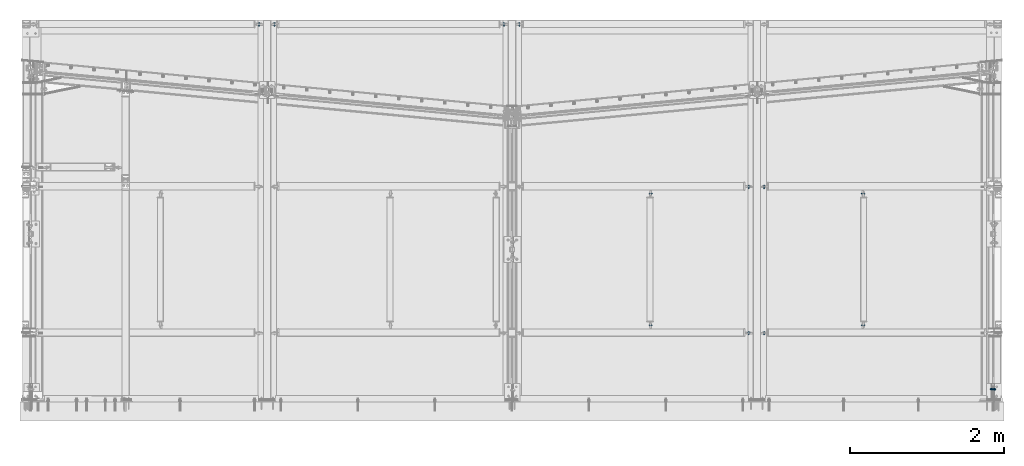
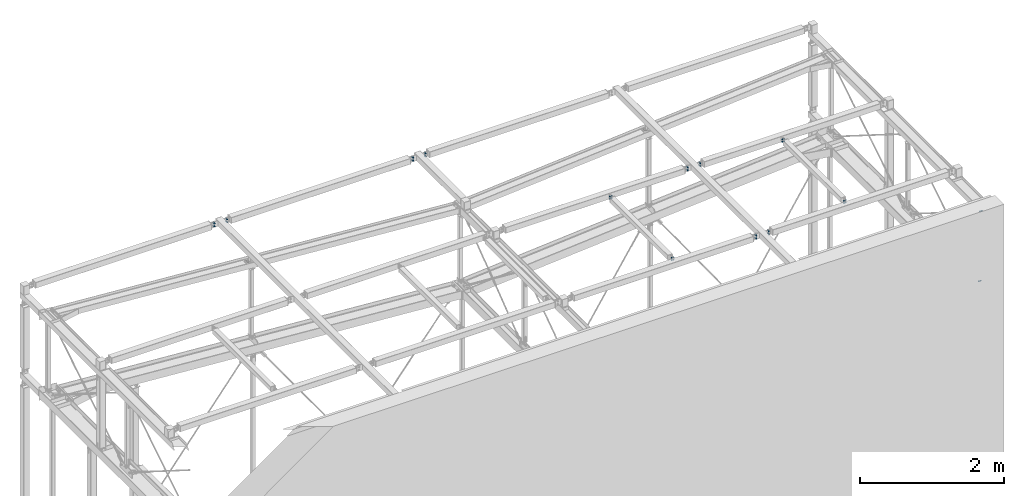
# One storey, part 255 of 271: 14 mechanical fasteners, 11 elements without a shape of their own.
"""IFC2X3 building model written with IfcOpenShell, lengths in millimetres."""

import ifcopenshell
import ifcopenshell.guid

model = None  # the IFC model being written
_history = None  # IfcOwnerHistory: only IFC2X3 demands one
_inside = {}  # id of a spatial element -> (the spatial element, [elements in it])
_under = {}  # id of a project, library or spatial element -> (it, [spatial elements below it])
_declared = {}  # id of a project -> (the project, [libraries it declares])
_typed = {}  # id of a type object -> (the type object, [elements of that type])
_made_of = {}  # id of a material, layer set ... -> (it, [elements and type objects made of it])


def new_model(schema):
    """Start an empty IFC model of exactly this schema.

    Asked for "IFC4X3", IfcOpenShell would pick the latest addendum, in which some entities
    have other attributes; the version numbers below select the first issue.
    IFC2X3 requires an IfcOwnerHistory on every rooted entity: one is made here for all.
    """
    global model, _history
    if schema == "IFC4X3":
        model = ifcopenshell.file(schema_version=(4, 3, 0, 0))
    else:
        model = ifcopenshell.file(schema=schema)
    _inside.clear()
    _under.clear()
    _declared.clear()
    _typed.clear()
    _made_of.clear()
    _history = None
    if model.schema == "IFC2X3":
        org = make("IfcOrganization", Name="unknown")
        user = make(
            "IfcPersonAndOrganization",
            ThePerson=make("IfcPerson", FamilyName="unknown"),
            TheOrganization=org,
        )
        app = make(
            "IfcApplication",
            ApplicationDeveloper=org,
            Version="unknown",
            ApplicationFullName="unknown",
            ApplicationIdentifier="unknown",
        )
        _history = make(
            "IfcOwnerHistory",
            OwningUser=user,
            OwningApplication=app,
            ChangeAction="ADDED",
            CreationDate=0,
        )
    return model


def make(cls, **values):
    """One entity of the class cls with the attributes given. An attribute that is None is left unset."""
    return model.create_entity(
        cls, **{name: value for name, value in values.items() if value is not None}
    )


def rooted(cls, **values):
    """An entity with a GlobalId (a new one), such as an element, a storey or a relation."""
    return make(cls, GlobalId=ifcopenshell.guid.new(), OwnerHistory=_history, **values)


def si_unit(unit_type, name, prefix=None):
    """IfcSIUnit, for example si_unit("LENGTHUNIT", "METRE", prefix="MILLI")."""
    return make("IfcSIUnit", UnitType=unit_type, Prefix=prefix, Name=name)


def assignment(units):
    """IfcUnitAssignment: the units of a project."""
    return None if units is None else make("IfcUnitAssignment", Units=units)


def point(xyz):
    """IfcCartesianPoint."""
    return None if xyz is None else make("IfcCartesianPoint", Coordinates=xyz)


def direction(xyz):
    """IfcDirection."""
    return None if xyz is None else make("IfcDirection", DirectionRatios=xyz)


def frame(location, z_axis=None, x_axis=None):
    """IfcAxis2Placement3D, a coordinate frame: its origin and axes. An axis left out is left unset."""
    return make(
        "IfcAxis2Placement3D",
        Location=point(location),
        Axis=direction(z_axis),
        RefDirection=direction(x_axis),
    )


def frame_2d(location, x_axis=None):
    """IfcAxis2Placement2D, a coordinate frame in the plane: its origin and x axis."""
    return make(
        "IfcAxis2Placement2D", Location=point(location), RefDirection=direction(x_axis)
    )


def origin_with_axes():
    """The frame at (0, 0, 0) with the z axis (0, 0, 1) and the x axis (1, 0, 0) written out."""
    return frame((0.0, 0.0, 0.0), z_axis=(0.0, 0.0, 1.0), x_axis=(1.0, 0.0, 0.0))


def origin_2d_with_axis():
    """The frame at (0, 0) in the plane with the x axis (1, 0) written out."""
    return frame_2d((0.0, 0.0), x_axis=(1.0, 0.0))


def place(relative_to, where):
    """IfcLocalPlacement: puts the frame where relative to a parent placement (None: the world)."""
    return make(
        "IfcLocalPlacement", PlacementRelTo=relative_to, RelativePlacement=where
    )


def context(
    kind, dimensions, precision=None, world=None, true_north=None, identifier=None
):
    """IfcGeometricRepresentationContext, for example the 3D "Model" context."""
    return make(
        "IfcGeometricRepresentationContext",
        ContextIdentifier=identifier,
        ContextType=kind,
        CoordinateSpaceDimension=dimensions,
        Precision=precision,
        WorldCoordinateSystem=world,
        TrueNorth=true_north,
    )


def subcontext(parent, identifier, kind, view, scale=None):
    """IfcGeometricRepresentationSubContext, for example "Body" below "Model"."""
    return make(
        "IfcGeometricRepresentationSubContext",
        ContextIdentifier=identifier,
        ContextType=kind,
        ParentContext=parent,
        TargetScale=scale,
        TargetView=view,
    )


def project(units=None, contexts=None):
    """IfcProject with its units and contexts."""
    return rooted(
        "IfcProject",
        Name="project",
        RepresentationContexts=contexts,
        UnitsInContext=assignment(units),
    )


def spatial(cls, under=None, at=None, **own):
    """A site, building, storey or space (cls), placed at a placement, below another one or the project."""
    s = rooted(cls, ObjectPlacement=at, **own)
    if under is not None:
        _under.setdefault(under.id(), (under, []))[1].append(s)
    return s


def polyline(points):
    """IfcPolyline through the points."""
    return make("IfcPolyline", Points=[point(p) for p in points])


def circle_curve(where, radius):
    """IfcCircle in the frame where."""
    return make("IfcCircle", Position=where, Radius=radius)


def parameter(value):
    """IfcParameterValue: where a trimmed curve begins or ends, as a parameter of its basis curve."""
    return model.create_entity("IfcParameterValue", value)


def trimmed(basis, trim1, trim2, sense, master):
    """IfcTrimmedCurve: the piece of a basis curve between two trims."""
    return make(
        "IfcTrimmedCurve",
        BasisCurve=basis,
        Trim1=trim1,
        Trim2=trim2,
        SenseAgreement=sense,
        MasterRepresentation=master,
    )


def segment(curve, same_sense, transition):
    """IfcCompositeCurveSegment."""
    return make(
        "IfcCompositeCurveSegment",
        Transition=transition,
        SameSense=same_sense,
        ParentCurve=curve,
    )


def composite_curve(segments, self_intersect=None):
    """IfcCompositeCurve: segments joined end to end."""
    return make("IfcCompositeCurve", Segments=segments, SelfIntersect=self_intersect)


def profile(cls, at=None, kind="AREA", **sizes):
    """A parametric profile (cls). Its sizes go by their IFC names, for example OverallWidth=200.0."""
    return make(cls, ProfileType=kind, Position=at, **sizes)


def circle(**sizes):
    """IfcCircleProfileDef."""
    return profile("IfcCircleProfileDef", **sizes)


def outline(outer, holes=None, kind="AREA"):
    """IfcArbitraryClosedProfileDef: a profile drawn as a closed curve; with holes, ...WithVoids."""
    if holes is None:
        return make("IfcArbitraryClosedProfileDef", ProfileType=kind, OuterCurve=outer)
    return make(
        "IfcArbitraryProfileDefWithVoids",
        ProfileType=kind,
        OuterCurve=outer,
        InnerCurves=holes,
    )


def extrude(swept, where, along, depth):
    """IfcExtrudedAreaSolid: the profile swept, set in the frame where, extruded along a direction by depth."""
    return make(
        "IfcExtrudedAreaSolid",
        SweptArea=swept,
        Position=where,
        ExtrudedDirection=direction(along),
        Depth=depth,
    )


def shape(context_of_items, identifier, shape_type, items):
    """IfcShapeRepresentation: the items that make up one representation, for example the "Body"."""
    return make(
        "IfcShapeRepresentation",
        ContextOfItems=context_of_items,
        RepresentationIdentifier=identifier,
        RepresentationType=shape_type,
        Items=items,
    )


def source(mapping_origin, context_of_items, identifier, shape_type, items):
    """IfcRepresentationMap: a shape defined once, which mapped items show again and again."""
    return make(
        "IfcRepresentationMap",
        MappingOrigin=mapping_origin,
        MappedRepresentation=shape(context_of_items, identifier, shape_type, items),
    )


def transform(
    local_origin,
    x_axis=None,
    y_axis=None,
    z_axis=None,
    scale=None,
    scale2=None,
    scale3=None,
    uniform=True,
):
    """IfcCartesianTransformationOperator3D, or its non-uniform kind. x_axis, y_axis, z_axis: its Axis1, 2, 3."""
    if uniform:
        return make(
            "IfcCartesianTransformationOperator3D",
            Axis1=direction(x_axis),
            Axis2=direction(y_axis),
            LocalOrigin=point(local_origin),
            Scale=scale,
            Axis3=direction(z_axis),
        )
    return make(
        "IfcCartesianTransformationOperator3DnonUniform",
        Axis1=direction(x_axis),
        Axis2=direction(y_axis),
        LocalOrigin=point(local_origin),
        Scale=scale,
        Axis3=direction(z_axis),
        Scale2=scale2,
        Scale3=scale3,
    )


def mapped(mapping_source, mapping_target):
    """IfcMappedItem: shows the shape of a source again, moved by a transform."""
    return make(
        "IfcMappedItem", MappingSource=mapping_source, MappingTarget=mapping_target
    )


def material(Name=None, Category=None):
    """IfcMaterial."""
    return make("IfcMaterial", Name=Name, Category=Category)


def made_of(thing, what):
    """Note that an element or type object is made of a material, layer set ...; save() writes the relation."""
    if what is not None:
        _made_of.setdefault(what.id(), (what, []))[1].append(thing)
    return thing


def type_object(cls, material=None, **own):
    """A type object (cls), such as IfcWallType, which elements share."""
    return made_of(rooted(cls, **own), material)


def element(
    cls,
    number,
    at=None,
    inside=None,
    cuts=None,
    type_object=None,
    material=None,
    context=None,
    identifier="Body",
    shape_type=None,
    held_by="IfcProductDefinitionShape",
    body=None,
    shapes=None,
    **own,
):
    """One element of the class cls, such as IfcWall. Its Tag is "e" and its number.

    at: its placement. inside: the storey or other place that contains it. cuts: it is an
    opening in that element (IfcRelVoidsElement). A single representation is given by context,
    identifier, shape_type and body (its items); several are given by shapes. held_by: the class
    of the entity that holds the representations. save() writes the other relations.
    """
    e = rooted(cls, Tag="e%d" % number, ObjectPlacement=at, **own)
    if body is not None:
        shapes = [shape(context, identifier, shape_type, body)]
    if shapes is not None:
        e.Representation = make(held_by, Representations=shapes)
    if inside is not None:
        _inside.setdefault(inside.id(), (inside, []))[1].append(e)
    if cuts is not None:
        rooted(
            "IfcRelVoidsElement", RelatingBuildingElement=cuts, RelatedOpeningElement=e
        )
    if type_object is not None:
        _typed.setdefault(type_object.id(), (type_object, []))[1].append(e)
    return made_of(e, material)


def aggregate(whole, parts):
    """IfcRelAggregates: a whole, such as a stair, and the parts it consists of."""
    return rooted("IfcRelAggregates", RelatingObject=whole, RelatedObjects=parts)


def save(model, path):
    """Write the relations noted so far, then the file.

    IfcRelAggregates (storeys below a building ...), IfcRelContainedInSpatialStructure (elements
    in a storey), IfcRelDefinesByType, IfcRelAssociatesMaterial and IfcRelDeclares: one each for
    every whole, place, type object, material and project.
    """
    for whole, parts in _under.values():
        aggregate(whole, parts)
    for where, things in _inside.values():
        rooted(
            "IfcRelContainedInSpatialStructure",
            RelatedElements=things,
            RelatingStructure=where,
        )
    for kind, things in _typed.values():
        rooted("IfcRelDefinesByType", RelatedObjects=things, RelatingType=kind)
    for what, things in _made_of.values():
        rooted("IfcRelAssociatesMaterial", RelatedObjects=things, RelatingMaterial=what)
    for by, libraries in _declared.values():
        rooted("IfcRelDeclares", RelatingContext=by, RelatedDefinitions=libraries)
    model.write(path)


model = new_model("IFC2X3")

# Units and contexts
model_context = context("Model", 3, precision=1e-05, world=origin_with_axes())
body_context = subcontext(model_context, "Body", "Model", "MODEL_VIEW")
ifc_project = project(units=[si_unit("LENGTHUNIT", "METRE", prefix="MILLI"), si_unit("AREAUNIT", "SQUARE_METRE"), si_unit("VOLUMEUNIT", "CUBIC_METRE"), si_unit("MASSUNIT", "GRAM", prefix="KILO"), si_unit("TIMEUNIT", "SECOND"), si_unit("PLANEANGLEUNIT", "RADIAN"), si_unit("SOLIDANGLEUNIT", "STERADIAN"), si_unit("THERMODYNAMICTEMPERATUREUNIT", "DEGREE_CELSIUS"), si_unit("LUMINOUSINTENSITYUNIT", "LUMEN")], contexts=[model_context])

# Site, building, storey
site_placement = place(None, origin_with_axes())
site = spatial("IfcSite", under=ifc_project, at=site_placement, Name="Undefined", CompositionType="ELEMENT")
building_placement = place(site_placement, origin_with_axes())
building = spatial("IfcBuilding", under=site, at=building_placement, Name="Undefined", CompositionType="ELEMENT")
storey_placement = place(building_placement, origin_with_axes())
storey = spatial("IfcBuildingStorey", under=building, at=storey_placement, Name="Undefined", CompositionType="ELEMENT", Elevation=0.0)

# Assembly, mechanical fastener
assembly_1_placement = place(storey_placement, origin_with_axes())
assembly_1 = element("IfcElementAssembly", 1, at=assembly_1_placement, inside=storey, AssemblyPlace="NOTDEFINED", PredefinedType="RIGID_FRAME")
ifc_material = material(Name="Undefined")
mechanical_fastener_type = type_object("IfcMechanicalFastenerType", Name="Bolt assembly")
shared_shape_1 = source(origin_with_axes(), body_context, "Body", "SweptSolid", [
    extrude(circle(Radius=6.5, at=origin_2d_with_axis()), frame((0.0, -5.1, 0.0), z_axis=(0.0, 1.0, 0.0), x_axis=(1.0, 0.0, 0.0)), (0.0, 0.0, 1.0), 10.1),
    extrude(circle(Radius=6.5, at=origin_2d_with_axis()), frame((0.0, -16.9, 0.0), z_axis=(0.0, 1.0, 0.0), x_axis=(1.0, 0.0, 0.0)), (0.0, 0.0, 1.0), 12.0),
    extrude(outline(polyline([(10.39230484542, 0.0), (5.19615242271, 9.00000000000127), (-5.19615242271, 9.00000000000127), (-10.39230484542, 0.0), (-5.19615242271, -9.00000000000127), (5.19615242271, -9.00000000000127), (10.39230484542, 0.0)])), frame((0.0, -27.0, 0.0), z_axis=(0.0, 1.0, 0.0), x_axis=(1.0, 0.0, 0.0)), (0.0, 0.0, 1.0), 7.5),
    extrude(circle(Radius=6.0, at=origin_2d_with_axis()), frame((0.0, -19.5, 0.0), z_axis=(0.0, 1.0, 0.0), x_axis=(1.0, 0.0, 0.0)), (0.0, 0.0, 1.0), 45.0),
    extrude(circle(Radius=12.0, at=origin_2d_with_axis()), frame((0.0, -19.5, 0.0), z_axis=(0.0, 1.0, 0.0), x_axis=(1.0, 0.0, 0.0)), (0.0, 0.0, 1.0), 2.5),
    extrude(circle(Radius=12.0, at=origin_2d_with_axis()), frame((0.0, 5.00000000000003, 0.0), z_axis=(0.0, 1.0, 0.0), x_axis=(1.0, 0.0, 0.0)), (0.0, 0.0, 1.0), 2.5),
    extrude(outline(polyline([(10.96965511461, 0.0), (5.484827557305, 9.50000000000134), (-5.484827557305, 9.50000000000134), (-10.96965511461, 0.0), (-5.484827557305, -9.50000000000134), (5.484827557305, -9.50000000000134), (10.96965511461, 0.0)])), frame((0.0, 7.50000000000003, 0.0), z_axis=(0.0, 1.0, 0.0), x_axis=(1.0, 0.0, 0.0)), (0.0, 0.0, 1.0), 10.0),
])
mechanical_fastener_1_placement = place(assembly_1_placement, frame((12586.7513741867, 164.506095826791, 18734.6674519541), z_axis=(0.0, -0.533166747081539, 0.846010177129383), x_axis=(0.0, 0.846010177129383, 0.533166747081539)))
mechanical_fastener_1 = element("IfcMechanicalFastener", 2, at=mechanical_fastener_1_placement, type_object=mechanical_fastener_type, material=ifc_material, Name="Bolt assembly", NominalDiameter=12.0, NominalLength=45.0, context=body_context, shape_type="MappedRepresentation", body=[
    mapped(shared_shape_1, transform((0.0, 0.0, 0.0))),
])
aggregate(assembly_1, [mechanical_fastener_1])

assembly_2_placement = place(storey_placement, origin_with_axes())
assembly_2 = element("IfcElementAssembly", 3, at=assembly_2_placement, inside=storey, AssemblyPlace="NOTDEFINED", PredefinedType="RIGID_FRAME")
mechanical_fastener_2_placement = place(assembly_2_placement, frame((12608.7513741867, 163.47469996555, 19914.6825462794), z_axis=(0.0, -0.533166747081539, -0.846010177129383), x_axis=(0.0, 0.846010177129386, -0.533166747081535)))
mechanical_fastener_2 = element("IfcMechanicalFastener", 4, at=mechanical_fastener_2_placement, type_object=mechanical_fastener_type, material=ifc_material, Name="Bolt assembly", NominalDiameter=12.0, NominalLength=45.0, context=body_context, shape_type="MappedRepresentation", body=[
    mapped(shared_shape_1, transform((0.0, 0.0, 0.0))),
])
aggregate(assembly_2, [mechanical_fastener_2])

assembly_3_placement = place(storey_placement, origin_with_axes())
assembly_3 = element("IfcElementAssembly", 5, at=assembly_3_placement, inside=storey, AssemblyPlace="NOTDEFINED", PredefinedType="RIGID_FRAME")
shared_shape_2 = source(origin_with_axes(), body_context, "Body", "SweptSolid", [
    extrude(circle(Radius=6.5, at=origin_2d_with_axis()), frame((0.0, -5.1, 0.0), z_axis=(0.0, 1.0, 0.0), x_axis=(1.0, 0.0, 0.0)), (0.0, 0.0, 1.0), 10.1),
    extrude(circle(Radius=6.5, at=origin_2d_with_axis()), frame((0.0, -14.9000000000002, 0.0), z_axis=(0.0, 1.0, 0.0), x_axis=(1.0, 0.0, 0.0)), (0.0, 0.0, 1.0), 10.0),
    extrude(outline(polyline([(10.39230484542, 0.0), (5.19615242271, 9.00000000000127), (-5.19615242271, 9.00000000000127), (-10.39230484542, 0.0), (-5.19615242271, -9.00000000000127), (5.19615242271, -9.00000000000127), (10.39230484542, 0.0)])), frame((0.0, -25.0000000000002, 0.0), z_axis=(0.0, 1.0, 0.0), x_axis=(1.0, 0.0, 0.0)), (0.0, 0.0, 1.0), 7.5),
    extrude(circle(Radius=6.0, at=origin_2d_with_axis()), frame((0.0, -17.5000000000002, 0.0), z_axis=(0.0, 1.0, 0.0), x_axis=(1.0, 0.0, 0.0)), (0.0, 0.0, 1.0), 40.0),
    extrude(circle(Radius=12.0, at=origin_2d_with_axis()), frame((0.0, -17.5000000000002, 0.0), z_axis=(0.0, 1.0, 0.0), x_axis=(1.0, 0.0, 0.0)), (0.0, 0.0, 1.0), 2.5),
    extrude(circle(Radius=12.0, at=origin_2d_with_axis()), frame((0.0, 5.00000000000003, 0.0), z_axis=(0.0, 1.0, 0.0), x_axis=(1.0, 0.0, 0.0)), (0.0, 0.0, 1.0), 2.5),
    extrude(outline(polyline([(10.96965511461, 0.0), (5.484827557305, 9.50000000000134), (-5.484827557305, 9.50000000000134), (-10.96965511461, 0.0), (-5.484827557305, -9.50000000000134), (5.484827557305, -9.50000000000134), (10.96965511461, 0.0)])), frame((0.0, 7.50000000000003, 0.0), z_axis=(0.0, 1.0, 0.0), x_axis=(1.0, 0.0, 0.0)), (0.0, 0.0, 1.0), 10.0),
])
mechanical_fastener_3_placement = place(assembly_3_placement, frame((6443.37568736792, 4899.32498425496, 20154.3499999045), z_axis=(0.0, 0.0, -1.0), x_axis=(1.0, 0.0, 0.0)))
mechanical_fastener_3 = element("IfcMechanicalFastener", 6, at=mechanical_fastener_3_placement, type_object=mechanical_fastener_type, material=ifc_material, Name="Bolt assembly", NominalDiameter=12.0, NominalLength=40.0, context=body_context, shape_type="MappedRepresentation", body=[
    mapped(shared_shape_2, transform((0.0, 0.0, -25.0))),
    mapped(shared_shape_2, transform((0.0, 0.0, 25.0))),
])
aggregate(assembly_3, [mechanical_fastener_3])

# Assembly, mechanical fasteners
assembly_4_placement = place(storey_placement, origin_with_axes())
assembly_4 = element("IfcElementAssembly", 7, at=assembly_4_placement, inside=storey, AssemblyPlace="NOTDEFINED", PredefinedType="RIGID_FRAME")
mechanical_fastener_4_placement = place(assembly_4_placement, frame((10905.3756870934, 994.32498425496, 20164.3499999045), z_axis=(0.0, 0.0, 1.0), x_axis=(0.0, 1.0, 0.0)))
mechanical_fastener_4 = element("IfcMechanicalFastener", 8, at=mechanical_fastener_4_placement, type_object=mechanical_fastener_type, material=ifc_material, Name="Bolt assembly", NominalDiameter=12.0, NominalLength=40.0, context=body_context, shape_type="MappedRepresentation", body=[
    mapped(shared_shape_2, transform((0.0, 0.0, -20.0))),
    mapped(shared_shape_2, transform((0.0, 0.0, 20.0))),
])
mechanical_fastener_5_placement = place(assembly_4_placement, frame((10905.3756870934, 2704.32498425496, 20164.3499999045), z_axis=(0.0, 0.0, -1.0), x_axis=(0.0, -1.0, 0.0)))
mechanical_fastener_5 = element("IfcMechanicalFastener", 9, at=mechanical_fastener_5_placement, type_object=mechanical_fastener_type, material=ifc_material, Name="Bolt assembly", NominalDiameter=12.0, NominalLength=40.0, context=body_context, shape_type="MappedRepresentation", body=[
    mapped(shared_shape_2, transform((0.0, 0.0, -20.0))),
    mapped(shared_shape_2, transform((0.0, 0.0, 20.0))),
])
aggregate(assembly_4, [mechanical_fastener_4, mechanical_fastener_5])

assembly_5_placement = place(storey_placement, origin_with_axes())
assembly_5 = element("IfcElementAssembly", 10, at=assembly_5_placement, inside=storey, AssemblyPlace="NOTDEFINED", PredefinedType="RIGID_FRAME")
mechanical_fastener_6_placement = place(assembly_5_placement, frame((8151.37568709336, 994.32498425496, 20164.3499999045), z_axis=(0.0, 0.0, -1.0), x_axis=(0.0, 1.0, 0.0)))
mechanical_fastener_6 = element("IfcMechanicalFastener", 11, at=mechanical_fastener_6_placement, type_object=mechanical_fastener_type, material=ifc_material, Name="Bolt assembly", NominalDiameter=12.0, NominalLength=40.0, context=body_context, shape_type="MappedRepresentation", body=[
    mapped(shared_shape_2, transform((0.0, 0.0, -20.0))),
    mapped(shared_shape_2, transform((0.0, 0.0, 20.0))),
])
mechanical_fastener_7_placement = place(assembly_5_placement, frame((8151.37568709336, 2704.32498425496, 20164.3499999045), z_axis=(0.0, 0.0, 1.0), x_axis=(0.0, -1.0, 0.0)))
mechanical_fastener_7 = element("IfcMechanicalFastener", 12, at=mechanical_fastener_7_placement, type_object=mechanical_fastener_type, material=ifc_material, Name="Bolt assembly", NominalDiameter=12.0, NominalLength=40.0, context=body_context, shape_type="MappedRepresentation", body=[
    mapped(shared_shape_2, transform((0.0, 0.0, -20.0))),
    mapped(shared_shape_2, transform((0.0, 0.0, 20.0))),
])
aggregate(assembly_5, [mechanical_fastener_6, mechanical_fastener_7])

# Assembly, mechanical fastener
assembly_6_placement = place(storey_placement, origin_with_axes())
assembly_6 = element("IfcElementAssembly", 13, at=assembly_6_placement, inside=storey, AssemblyPlace="NOTDEFINED", PredefinedType="RIGID_FRAME")
mechanical_fastener_8_placement = place(assembly_6_placement, frame((9623.37568709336, 2789.32498425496, 20154.3499999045), z_axis=(0.0, 0.0, -1.0), x_axis=(1.0, 0.0, 0.0)))
mechanical_fastener_8 = element("IfcMechanicalFastener", 14, at=mechanical_fastener_8_placement, type_object=mechanical_fastener_type, material=ifc_material, Name="Bolt assembly", NominalDiameter=12.0, NominalLength=40.0, context=body_context, shape_type="MappedRepresentation", body=[
    mapped(shared_shape_2, transform((0.0, 0.0, -25.0))),
    mapped(shared_shape_2, transform((0.0, 0.0, 25.0))),
])
aggregate(assembly_6, [mechanical_fastener_8])

assembly_7_placement = place(storey_placement, origin_with_axes())
assembly_7 = element("IfcElementAssembly", 15, at=assembly_7_placement, inside=storey, AssemblyPlace="NOTDEFINED", PredefinedType="RIGID_FRAME")
mechanical_fastener_9_placement = place(assembly_7_placement, frame((9623.37568709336, 889.32498425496, 20154.3499999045), z_axis=(0.0, 0.0, -1.0), x_axis=(1.0, 0.0, 0.0)))
mechanical_fastener_9 = element("IfcMechanicalFastener", 16, at=mechanical_fastener_9_placement, type_object=mechanical_fastener_type, material=ifc_material, Name="Bolt assembly", NominalDiameter=12.0, NominalLength=40.0, context=body_context, shape_type="MappedRepresentation", body=[
    mapped(shared_shape_2, transform((0.0, 0.0, -25.0))),
    mapped(shared_shape_2, transform((0.0, 0.0, 25.0))),
])
aggregate(assembly_7, [mechanical_fastener_9])

# Assembly, mechanical fasteners
assembly_8_placement = place(storey_placement, origin_with_axes())
assembly_8 = element("IfcElementAssembly", 17, at=assembly_8_placement, inside=storey, AssemblyPlace="NOTDEFINED", PredefinedType="RIGID_FRAME")
mechanical_fastener_10_placement = place(assembly_8_placement, frame((3263.37568709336, 4899.32498425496, 20154.3499999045), z_axis=(0.0, 0.0, -1.0), x_axis=(1.0, 0.0, 0.0)))
mechanical_fastener_10 = element("IfcMechanicalFastener", 18, at=mechanical_fastener_10_placement, type_object=mechanical_fastener_type, material=ifc_material, Name="Bolt assembly", NominalDiameter=12.0, NominalLength=40.0, context=body_context, shape_type="MappedRepresentation", body=[
    mapped(shared_shape_2, transform((0.0, 0.0, -25.0))),
    mapped(shared_shape_2, transform((0.0, 0.0, 25.0))),
])
shared_shape_3 = source(origin_with_axes(), body_context, "Body", "SweptSolid", [
    extrude(circle(Radius=6.5, at=origin_2d_with_axis()), frame((0.0, -5.1, 0.0), z_axis=(0.0, 1.0, 0.0), x_axis=(1.0, 0.0, 0.0)), (0.0, 0.0, 1.0), 10.1),
    extrude(outline(composite_curve([segment(polyline([(-13.5, 6.5), (13.5, 6.5)]), True, "CONTINUOUS"), segment(trimmed(circle_curve(frame_2d((13.5, 0.0), x_axis=(0.0, 1.0)), 6.5), [parameter(0.0)], [parameter(3.14159265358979)], False, "PARAMETER"), True, "CONTINUOUS"), segment(polyline([(13.5, -6.5), (-13.5, -6.5)]), True, "CONTINUOUS"), segment(trimmed(circle_curve(frame_2d((-13.5, 0.0), x_axis=(0.0, -1.0)), 6.5), [parameter(0.0)], [parameter(3.14159265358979)], False, "PARAMETER"), True, "DISCONTINUOUS")], self_intersect=False)), frame((0.0, -14.9000000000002, 0.0), z_axis=(0.0, 1.0, 0.0), x_axis=(1.0, 0.0, 0.0)), (0.0, 0.0, 1.0), 10.0),
    extrude(outline(polyline([(10.39230484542, 0.0), (5.19615242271, 9.00000000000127), (-5.19615242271, 9.00000000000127), (-10.39230484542, 0.0), (-5.19615242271, -9.00000000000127), (5.19615242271, -9.00000000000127), (10.39230484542, 0.0)])), frame((0.0, -25.0000000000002, 0.0), z_axis=(0.0, 1.0, 0.0), x_axis=(1.0, 0.0, 0.0)), (0.0, 0.0, 1.0), 7.5),
    extrude(circle(Radius=6.0, at=origin_2d_with_axis()), frame((0.0, -17.5000000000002, 0.0), z_axis=(0.0, 1.0, 0.0), x_axis=(1.0, 0.0, 0.0)), (0.0, 0.0, 1.0), 40.0),
    extrude(circle(Radius=12.0, at=origin_2d_with_axis()), frame((0.0, -17.5000000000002, 0.0), z_axis=(0.0, 1.0, 0.0), x_axis=(1.0, 0.0, 0.0)), (0.0, 0.0, 1.0), 2.5),
    extrude(circle(Radius=12.0, at=origin_2d_with_axis()), frame((0.0, 5.00000000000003, 0.0), z_axis=(0.0, 1.0, 0.0), x_axis=(1.0, 0.0, 0.0)), (0.0, 0.0, 1.0), 2.5),
    extrude(outline(polyline([(10.96965511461, 0.0), (5.484827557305, 9.50000000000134), (-5.484827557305, 9.50000000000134), (-10.96965511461, 0.0), (-5.484827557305, -9.50000000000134), (5.484827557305, -9.50000000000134), (10.96965511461, 0.0)])), frame((0.0, 7.50000000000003, 0.0), z_axis=(0.0, 1.0, 0.0), x_axis=(1.0, 0.0, 0.0)), (0.0, 0.0, 1.0), 10.0),
])
mechanical_fastener_11_placement = place(assembly_8_placement, frame((6243.37568736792, 4899.32498425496, 20154.3499999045), z_axis=(0.0, 0.0, 1.0), x_axis=(-1.0, 0.0, 1.38777878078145e-17)))
mechanical_fastener_11 = element("IfcMechanicalFastener", 19, at=mechanical_fastener_11_placement, type_object=mechanical_fastener_type, material=ifc_material, Name="Bolt assembly", NominalDiameter=12.0, NominalLength=40.0, context=body_context, shape_type="MappedRepresentation", body=[
    mapped(shared_shape_3, transform((0.0, 0.0, -25.0))),
    mapped(shared_shape_3, transform((0.0, 0.0, 25.0))),
])
aggregate(assembly_8, [mechanical_fastener_11, mechanical_fastener_10])

# Assembly, mechanical fastener
assembly_9_placement = place(storey_placement, origin_with_axes())
assembly_9 = element("IfcElementAssembly", 20, at=assembly_9_placement, inside=storey, AssemblyPlace="NOTDEFINED", PredefinedType="RIGID_FRAME")
shared_shape_4 = source(origin_with_axes(), body_context, "Body", "SweptSolid", [
    extrude(circle(Radius=6.5, at=origin_2d_with_axis()), frame((0.0, -5.1, 0.0), z_axis=(0.0, 1.0, 0.0), x_axis=(1.0, 0.0, 0.0)), (0.0, 0.0, 1.0), 10.1),
    extrude(outline(composite_curve([segment(polyline([(-13.5, 6.5), (13.5, 6.5)]), True, "CONTINUOUS"), segment(trimmed(circle_curve(frame_2d((13.5, 0.0), x_axis=(0.0, 1.0)), 6.5), [parameter(0.0)], [parameter(3.14159265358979)], False, "PARAMETER"), True, "CONTINUOUS"), segment(polyline([(13.5, -6.5), (-13.5, -6.5)]), True, "CONTINUOUS"), segment(trimmed(circle_curve(frame_2d((-13.5, 0.0), x_axis=(0.0, -1.0)), 6.5), [parameter(0.0)], [parameter(3.14159265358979)], False, "PARAMETER"), True, "DISCONTINUOUS")], self_intersect=False)), frame((0.0, -14.9000000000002, 0.0), z_axis=(0.0, 1.0, 0.0), x_axis=(1.0, 0.0, 0.0)), (0.0, 0.0, 1.0), 10.0),
    extrude(outline(polyline([(10.39230484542, 0.0), (5.19615242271, 9.00000000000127), (-5.19615242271, 9.00000000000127), (-10.39230484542, 0.0), (-5.19615242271, -9.00000000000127), (5.19615242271, -9.00000000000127), (10.39230484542, 0.0)])), frame((0.0, -25.0000000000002, 0.0), z_axis=(0.0, 1.0, 0.0), x_axis=(1.0, 0.0, 0.0)), (0.0, 0.0, 1.0), 7.5),
    extrude(circle(Radius=6.0, at=origin_2d_with_axis()), frame((0.0, -17.5000000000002, 0.0), z_axis=(0.0, 1.0, 0.0), x_axis=(1.0, 0.0, 0.0)), (0.0, 0.0, 1.0), 40.0),
    extrude(circle(Radius=12.0, at=origin_2d_with_axis()), frame((0.0, -17.5000000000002, 0.0), z_axis=(0.0, 1.0, 0.0), x_axis=(1.0, 0.0, 0.0)), (0.0, 0.0, 1.0), 2.5),
    extrude(circle(Radius=12.0, at=origin_2d_with_axis()), frame((0.0, 5.00000000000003, 0.0), z_axis=(0.0, 1.0, 0.0), x_axis=(1.0, 0.0, 0.0)), (0.0, 0.0, 1.0), 2.5),
    extrude(outline(polyline([(10.96965511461, 0.0), (5.484827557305, 9.50000000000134), (-5.484827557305, 9.50000000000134), (-10.96965511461, 0.0), (-5.484827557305, -9.50000000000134), (5.484827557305, -9.50000000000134), (10.96965511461, 0.0)])), frame((0.0, 7.50000000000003, 0.0), z_axis=(0.0, 1.0, 0.0), x_axis=(1.0, 0.0, 0.0)), (0.0, 0.0, 1.0), 10.0),
])
mechanical_fastener_12_placement = place(assembly_9_placement, frame((9423.37568709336, 2789.32498425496, 20154.3499999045), z_axis=(0.0, 0.0, 1.0), x_axis=(-1.0, 0.0, 1.38777878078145e-17)))
mechanical_fastener_12 = element("IfcMechanicalFastener", 21, at=mechanical_fastener_12_placement, type_object=mechanical_fastener_type, material=ifc_material, Name="Bolt assembly", NominalDiameter=12.0, NominalLength=40.0, context=body_context, shape_type="MappedRepresentation", body=[
    mapped(shared_shape_4, transform((0.0, 0.0, -25.0))),
    mapped(shared_shape_4, transform((0.0, 0.0, 25.0))),
])
aggregate(assembly_9, [mechanical_fastener_12])

assembly_10_placement = place(storey_placement, origin_with_axes())
assembly_10 = element("IfcElementAssembly", 22, at=assembly_10_placement, inside=storey, AssemblyPlace="NOTDEFINED", PredefinedType="RIGID_FRAME")
shared_shape_5 = source(origin_with_axes(), body_context, "Body", "SweptSolid", [
    extrude(circle(Radius=6.5, at=origin_2d_with_axis()), frame((0.0, -5.1, 0.0), z_axis=(0.0, 1.0, 0.0), x_axis=(1.0, 0.0, 0.0)), (0.0, 0.0, 1.0), 10.1),
    extrude(outline(composite_curve([segment(polyline([(-13.5, 6.5), (13.5, 6.5)]), True, "CONTINUOUS"), segment(trimmed(circle_curve(frame_2d((13.5, 0.0), x_axis=(0.0, 1.0)), 6.5), [parameter(0.0)], [parameter(3.14159265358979)], False, "PARAMETER"), True, "CONTINUOUS"), segment(polyline([(13.5, -6.5), (-13.5, -6.5)]), True, "CONTINUOUS"), segment(trimmed(circle_curve(frame_2d((-13.5, 0.0), x_axis=(0.0, -1.0)), 6.5), [parameter(0.0)], [parameter(3.14159265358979)], False, "PARAMETER"), True, "DISCONTINUOUS")], self_intersect=False)), frame((0.0, -14.9000000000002, 0.0), z_axis=(0.0, 1.0, 0.0), x_axis=(1.0, 0.0, 0.0)), (0.0, 0.0, 1.0), 10.0),
    extrude(outline(polyline([(10.39230484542, 0.0), (5.19615242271, 9.00000000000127), (-5.19615242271, 9.00000000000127), (-10.39230484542, 0.0), (-5.19615242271, -9.00000000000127), (5.19615242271, -9.00000000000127), (10.39230484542, 0.0)])), frame((0.0, -25.0000000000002, 0.0), z_axis=(0.0, 1.0, 0.0), x_axis=(1.0, 0.0, 0.0)), (0.0, 0.0, 1.0), 7.5),
    extrude(circle(Radius=6.0, at=origin_2d_with_axis()), frame((0.0, -17.5000000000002, 0.0), z_axis=(0.0, 1.0, 0.0), x_axis=(1.0, 0.0, 0.0)), (0.0, 0.0, 1.0), 40.0),
    extrude(circle(Radius=12.0, at=origin_2d_with_axis()), frame((0.0, -17.5000000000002, 0.0), z_axis=(0.0, 1.0, 0.0), x_axis=(1.0, 0.0, 0.0)), (0.0, 0.0, 1.0), 2.5),
    extrude(circle(Radius=12.0, at=origin_2d_with_axis()), frame((0.0, 5.00000000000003, 0.0), z_axis=(0.0, 1.0, 0.0), x_axis=(1.0, 0.0, 0.0)), (0.0, 0.0, 1.0), 2.5),
    extrude(outline(polyline([(10.96965511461, 0.0), (5.484827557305, 9.50000000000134), (-5.484827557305, 9.50000000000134), (-10.96965511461, 0.0), (-5.484827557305, -9.50000000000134), (5.484827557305, -9.50000000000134), (10.96965511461, 0.0)])), frame((0.0, 7.50000000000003, 0.0), z_axis=(0.0, 1.0, 0.0), x_axis=(1.0, 0.0, 0.0)), (0.0, 0.0, 1.0), 10.0),
])
mechanical_fastener_13_placement = place(assembly_10_placement, frame((9423.37568709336, 889.32498425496, 20154.3499999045), z_axis=(0.0, 0.0, 1.0), x_axis=(-1.0, 0.0, 1.38777878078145e-17)))
mechanical_fastener_13 = element("IfcMechanicalFastener", 23, at=mechanical_fastener_13_placement, type_object=mechanical_fastener_type, material=ifc_material, Name="Bolt assembly", NominalDiameter=12.0, NominalLength=40.0, context=body_context, shape_type="MappedRepresentation", body=[
    mapped(shared_shape_5, transform((0.0, 0.0, -25.0))),
    mapped(shared_shape_5, transform((0.0, 0.0, 25.0))),
])
aggregate(assembly_10, [mechanical_fastener_13])

assembly_11_placement = place(storey_placement, origin_with_axes())
assembly_11 = element("IfcElementAssembly", 24, at=assembly_11_placement, inside=storey, AssemblyPlace="NOTDEFINED", PredefinedType="RIGID_FRAME")
shared_shape_6 = source(origin_with_axes(), body_context, "Body", "SweptSolid", [
    extrude(circle(Radius=6.5, at=origin_2d_with_axis()), frame((0.0, -5.1, 0.0), z_axis=(0.0, 1.0, 0.0), x_axis=(1.0, 0.0, 0.0)), (0.0, 0.0, 1.0), 10.1),
    extrude(outline(composite_curve([segment(polyline([(-13.5, 6.5), (13.5, 6.5)]), True, "CONTINUOUS"), segment(trimmed(circle_curve(frame_2d((13.5, 0.0), x_axis=(0.0, 1.0)), 6.5), [parameter(0.0)], [parameter(3.14159265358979)], False, "PARAMETER"), True, "CONTINUOUS"), segment(polyline([(13.5, -6.5), (-13.5, -6.5)]), True, "CONTINUOUS"), segment(trimmed(circle_curve(frame_2d((-13.5, 0.0), x_axis=(0.0, -1.0)), 6.5), [parameter(0.0)], [parameter(3.14159265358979)], False, "PARAMETER"), True, "DISCONTINUOUS")], self_intersect=False)), frame((0.0, -14.9000000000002, 0.0), z_axis=(0.0, 1.0, 0.0), x_axis=(1.0, 0.0, 0.0)), (0.0, 0.0, 1.0), 10.0),
    extrude(outline(polyline([(10.39230484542, 0.0), (5.19615242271, 9.00000000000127), (-5.19615242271, 9.00000000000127), (-10.39230484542, 0.0), (-5.19615242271, -9.00000000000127), (5.19615242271, -9.00000000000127), (10.39230484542, 0.0)])), frame((0.0, -25.0000000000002, 0.0), z_axis=(0.0, 1.0, 0.0), x_axis=(1.0, 0.0, 0.0)), (0.0, 0.0, 1.0), 7.5),
    extrude(circle(Radius=6.0, at=origin_2d_with_axis()), frame((0.0, -17.5000000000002, 0.0), z_axis=(0.0, 1.0, 0.0), x_axis=(1.0, 0.0, 0.0)), (0.0, 0.0, 1.0), 40.0),
    extrude(circle(Radius=12.0, at=origin_2d_with_axis()), frame((0.0, -17.5000000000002, 0.0), z_axis=(0.0, 1.0, 0.0), x_axis=(1.0, 0.0, 0.0)), (0.0, 0.0, 1.0), 2.5),
    extrude(circle(Radius=12.0, at=origin_2d_with_axis()), frame((0.0, 5.00000000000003, 0.0), z_axis=(0.0, 1.0, 0.0), x_axis=(1.0, 0.0, 0.0)), (0.0, 0.0, 1.0), 2.5),
    extrude(outline(polyline([(10.96965511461, 0.0), (5.484827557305, 9.50000000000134), (-5.484827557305, 9.50000000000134), (-10.96965511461, 0.0), (-5.484827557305, -9.50000000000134), (5.484827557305, -9.50000000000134), (10.96965511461, 0.0)])), frame((0.0, 7.50000000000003, 0.0), z_axis=(0.0, 1.0, 0.0), x_axis=(1.0, 0.0, 0.0)), (0.0, 0.0, 1.0), 10.0),
])
mechanical_fastener_14_placement = place(assembly_11_placement, frame((3063.37568709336, 4899.32498425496, 20154.3499999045), z_axis=(0.0, 0.0, 1.0), x_axis=(-1.0, 0.0, 1.38777878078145e-17)))
mechanical_fastener_14 = element("IfcMechanicalFastener", 25, at=mechanical_fastener_14_placement, type_object=mechanical_fastener_type, material=ifc_material, Name="Bolt assembly", NominalDiameter=12.0, NominalLength=40.0, context=body_context, shape_type="MappedRepresentation", body=[
    mapped(shared_shape_6, transform((0.0, 0.0, -25.0))),
    mapped(shared_shape_6, transform((0.0, 0.0, 25.0))),
])
aggregate(assembly_11, [mechanical_fastener_14])

save(model, "model.ifc")
